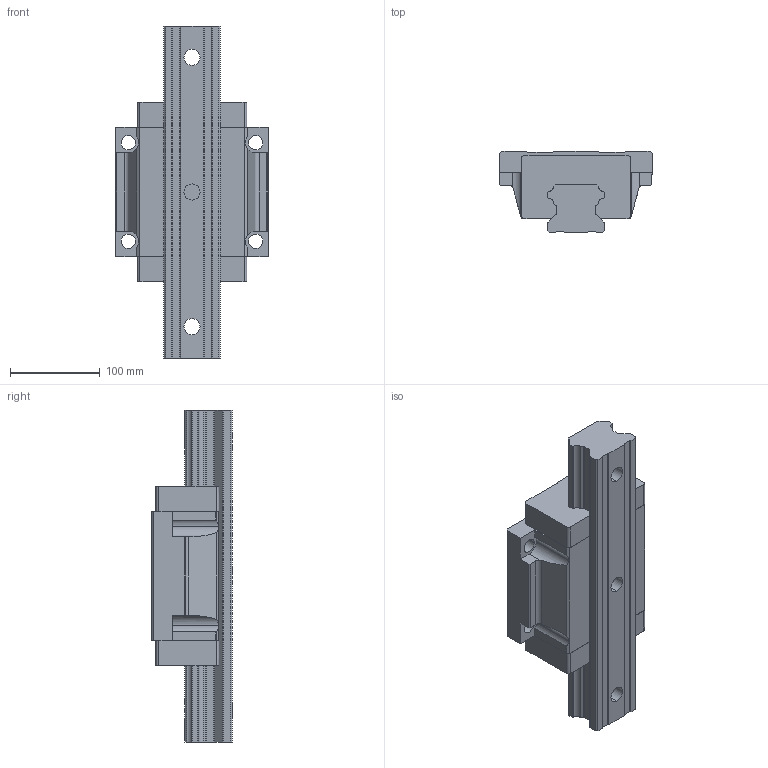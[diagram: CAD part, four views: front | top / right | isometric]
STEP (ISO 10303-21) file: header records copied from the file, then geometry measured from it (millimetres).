
FILE_DESCRIPTION (( 'STEP AP214' ), '1' );
FILE_NAME ('2.1008 Lineaarikelkka HGW65CC.STEP', '2025-09-19T06:41:57', ( '' ), ( '' ), 'SwSTEP 2.0', 'SolidWorks 2025', '' );
FILE_SCHEMA (( 'AUTOMOTIVE_DESIGN' ));
Length unit declared in the file: millimetre
Products named in the file (1): 2.1008 Lineaarikelkka HGW65CC
Bounding box: 170 x 90 x 370 mm (x, y, z)
Volume: 2629939.7 mm3; surface area: 232567.2 mm2
Topology: 2 solids, 2 shells, 174 faces, 493 edges, 326 vertices
Faces by surface type: plane 119, cylinder 55
Entity records: 7685 total; most frequent: CARTESIAN_POINT 1130, ORIENTED_EDGE 986, DIRECTION 937, EDGE_CURVE 493, LINE 363, VECTOR 363, VERTEX_POINT 326, AXIS2_PLACEMENT_3D 287
